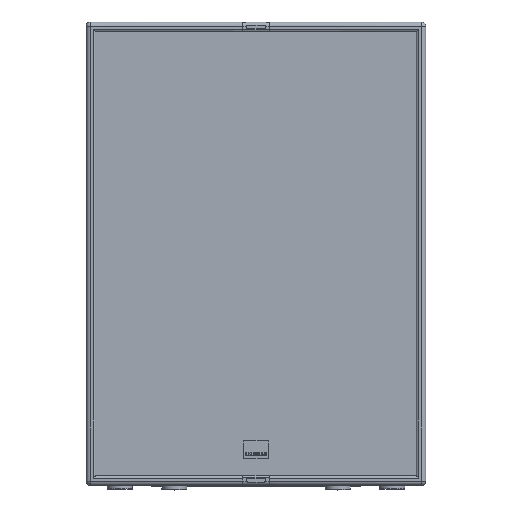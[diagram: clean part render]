
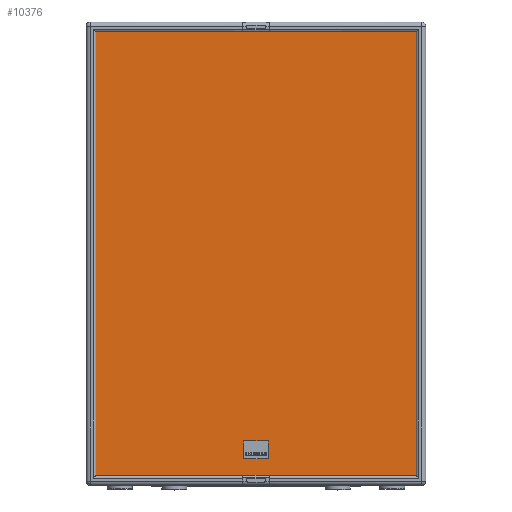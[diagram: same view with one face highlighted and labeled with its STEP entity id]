
A CAD part, top view. The second image highlights one B-rep face of the part: STEP entity #10376.
In plain terms, the highlighted planar face has unit normal (0, 0, 1) as drawn and (0, -1, 0) by its records, which use the part's own axes.
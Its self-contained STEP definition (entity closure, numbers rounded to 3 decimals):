
#10300 = EDGE_CURVE ( 'NONE', #10301, #10379, #21957, .T. ) ;
#10301 = VERTEX_POINT ( 'NONE', #21953 ) ;
#10302 = ORIENTED_EDGE ( 'NONE', *, *, #10303, .T. ) ;
#10303 = EDGE_CURVE ( 'NONE', #10301, #10304, #21952, .T. ) ;
#10304 = VERTEX_POINT ( 'NONE', #21948 ) ;
#10305 = ORIENTED_EDGE ( 'NONE', *, *, #10306, .F. ) ;
#10306 = EDGE_CURVE ( 'NONE', #10380, #10304, #21947, .T. ) ;
#10318 = EDGE_LOOP ( 'NONE', ( #10377, #10381, #10302, #10305 ) ) ;
#10376 = ADVANCED_FACE ( 'NONE', ( #22027 ), #22087, .T. ) ;
#10377 = ORIENTED_EDGE ( 'NONE', *, *, #10378, .F. ) ;
#10378 = EDGE_CURVE ( 'NONE', #10379, #10380, #22085, .T. ) ;
#10379 = VERTEX_POINT ( 'NONE', #22078 ) ;
#10380 = VERTEX_POINT ( 'NONE', #22077 ) ;
#10381 = ORIENTED_EDGE ( 'NONE', *, *, #10300, .F. ) ;
#21944 = DIRECTION ( 'NONE',  ( 0., 0., 1. ) ) ;
#21945 = VECTOR ( 'NONE', #21944, 1000. ) ;
#21946 = CARTESIAN_POINT ( 'NONE',  ( 15., 4., 0. ) ) ;
#21947 = LINE ( 'NONE', #21946, #21945 ) ;
#21948 = CARTESIAN_POINT ( 'NONE',  ( 15., 4., 668. ) ) ;
#21949 = DIRECTION ( 'NONE',  ( -1., 0., 0. ) ) ;
#21950 = VECTOR ( 'NONE', #21949, 1000. ) ;
#21951 = CARTESIAN_POINT ( 'NONE',  ( 15., 4., 668. ) ) ;
#21952 = LINE ( 'NONE', #21951, #21950 ) ;
#21953 = CARTESIAN_POINT ( 'NONE',  ( 497., 4., 668. ) ) ;
#21954 = DIRECTION ( 'NONE',  ( 0., 0., -1. ) ) ;
#21955 = VECTOR ( 'NONE', #21954, 1000. ) ;
#21956 = CARTESIAN_POINT ( 'NONE',  ( 497., 4., 0. ) ) ;
#21957 = LINE ( 'NONE', #21956, #21955 ) ;
#22027 = FACE_OUTER_BOUND ( 'NONE', #10318, .T. ) ;
#22077 = CARTESIAN_POINT ( 'NONE',  ( 15., 4., 0. ) ) ;
#22078 = CARTESIAN_POINT ( 'NONE',  ( 497., 4., 0. ) ) ;
#22079 = DIRECTION ( 'NONE',  ( -1., 0., 0. ) ) ;
#22080 = VECTOR ( 'NONE', #22079, 1000. ) ;
#22081 = CARTESIAN_POINT ( 'NONE',  ( 256., 4., 0. ) ) ;
#22082 = DIRECTION ( 'NONE',  ( 0., 0., -1. ) ) ;
#22083 = DIRECTION ( 'NONE',  ( 0., -1., 0. ) ) ;
#22084 = CARTESIAN_POINT ( 'NONE',  ( 497., 4., 0. ) ) ;
#22085 = LINE ( 'NONE', #22081, #22080 ) ;
#22086 = AXIS2_PLACEMENT_3D ( 'NONE', #22084, #22083, #22082 ) ;
#22087 = PLANE ( 'NONE',  #22086 ) ;
